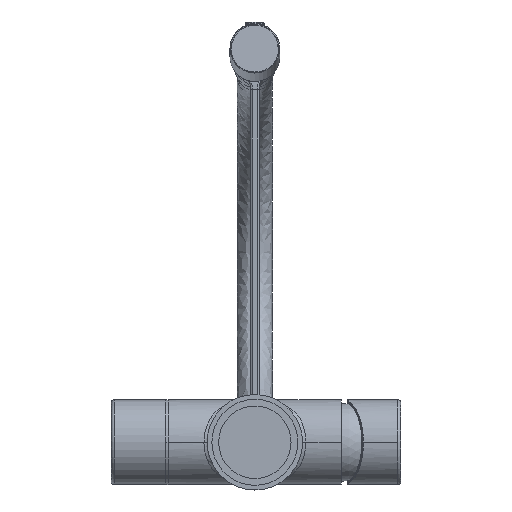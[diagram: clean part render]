
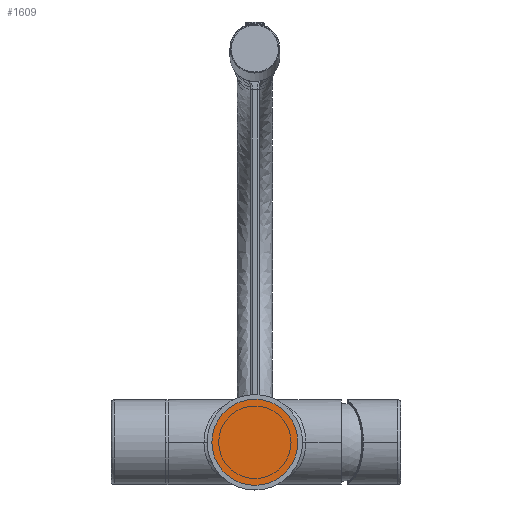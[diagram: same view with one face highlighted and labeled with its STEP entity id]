
A CAD part, front view. The second image highlights one B-rep face of the part: STEP entity #1609.
In plain terms, the highlighted planar face has unit normal (0, -1, 0).
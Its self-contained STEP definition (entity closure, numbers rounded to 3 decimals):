
#1526=CARTESIAN_POINT('',(0.,-0.5,0.));
#1527=DIRECTION('',(0.,1.,0.));
#1528=DIRECTION('',(1.,0.,0.));
#1529=AXIS2_PLACEMENT_3D('',#1526,#1527,#1528);
#1531=CARTESIAN_POINT('',(0.,-0.5,0.));
#1532=DIRECTION('',(0.,1.,0.));
#1533=DIRECTION('',(-1.,0.,0.));
#1534=AXIS2_PLACEMENT_3D('',#1531,#1532,#1533);
#1582=CARTESIAN_POINT('',(24.35,-0.5,0.));
#1583=CARTESIAN_POINT('',(-24.35,-0.5,0.));
#1584=VERTEX_POINT('',#1582);
#1585=VERTEX_POINT('',#1583);
#1598=CARTESIAN_POINT('',(0.,-0.5,0.));
#1599=DIRECTION('',(0.,-1.,0.));
#1600=DIRECTION('',(-1.,0.,0.));
#1601=AXIS2_PLACEMENT_3D('',#1598,#1599,#1600);
#1602=PLANE('',#1601);
#1604=ORIENTED_EDGE('',*,*,#1603,.T.);
#1606=ORIENTED_EDGE('',*,*,#1605,.T.);
#1607=EDGE_LOOP('',(#1604,#1606));
#1608=FACE_OUTER_BOUND('',#1607,.F.);
#1609=ADVANCED_FACE('',(#1608),#1602,.T.);
#1530=CIRCLE('',#1529,24.35);
#1535=CIRCLE('',#1534,24.35);
#1603=EDGE_CURVE('',#1584,#1585,#1530,.T.);
#1605=EDGE_CURVE('',#1585,#1584,#1535,.T.);
